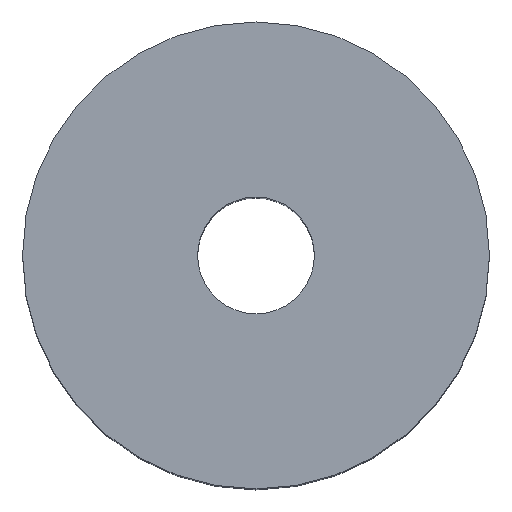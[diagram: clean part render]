
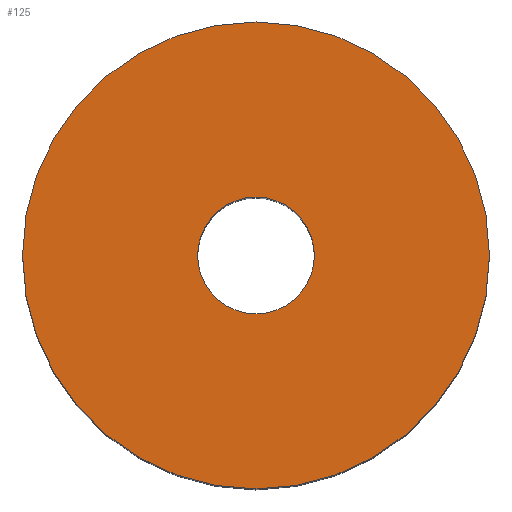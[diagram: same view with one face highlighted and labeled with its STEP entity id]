
A CAD part, top view. The second image highlights one B-rep face of the part: STEP entity #125.
In plain terms, the highlighted planar face has unit normal (0, 0, 1).
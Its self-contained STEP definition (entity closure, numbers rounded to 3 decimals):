
#125=ADVANCED_FACE('',(#137,#138),#135,.T.);
#135=PLANE('',#244);
#137=FACE_BOUND('',#141,.T.);
#138=FACE_BOUND('',#142,.T.);
#141=EDGE_LOOP('',(#153,#154));
#142=EDGE_LOOP('',(#155,#156));
#153=ORIENTED_EDGE('',*,*,#205,.T.);
#154=ORIENTED_EDGE('',*,*,#206,.T.);
#155=ORIENTED_EDGE('',*,*,#207,.F.);
#156=ORIENTED_EDGE('',*,*,#208,.F.);
#193=VERTEX_POINT('',#322);
#194=VERTEX_POINT('',#323);
#195=VERTEX_POINT('',#326);
#196=VERTEX_POINT('',#327);
#205=EDGE_CURVE('',#193,#194,#225,.T.);
#206=EDGE_CURVE('',#194,#193,#226,.T.);
#207=EDGE_CURVE('',#195,#196,#227,.T.);
#208=EDGE_CURVE('',#196,#195,#228,.T.);
#225=CIRCLE('',#240,40.);
#226=CIRCLE('',#241,40.);
#227=CIRCLE('',#242,10.);
#228=CIRCLE('',#243,10.);
#240=AXIS2_PLACEMENT_3D('',#321,#266,#267);
#241=AXIS2_PLACEMENT_3D('',#324,#268,#269);
#242=AXIS2_PLACEMENT_3D('',#325,#270,#271);
#243=AXIS2_PLACEMENT_3D('',#328,#272,#273);
#244=AXIS2_PLACEMENT_3D('',#329,#274,#275);
#266=DIRECTION('',(0.,0.,1.));
#267=DIRECTION('',(0.,1.,0.));
#268=DIRECTION('',(0.,0.,1.));
#269=DIRECTION('',(0.,-1.,0.));
#270=DIRECTION('',(0.,0.,1.));
#271=DIRECTION('',(0.,-1.,0.));
#272=DIRECTION('',(0.,0.,1.));
#273=DIRECTION('',(0.,1.,0.));
#274=DIRECTION('',(0.,0.,1.));
#275=DIRECTION('',(0.,1.,0.));
#321=CARTESIAN_POINT('',(0.,0.,103.));
#322=CARTESIAN_POINT('',(-40.,0.,103.));
#323=CARTESIAN_POINT('',(40.,0.,103.));
#324=CARTESIAN_POINT('',(0.,0.,103.));
#325=CARTESIAN_POINT('',(0.,0.,103.));
#326=CARTESIAN_POINT('',(10.,0.,103.));
#327=CARTESIAN_POINT('',(-10.,0.,103.));
#328=CARTESIAN_POINT('',(0.,0.,103.));
#329=CARTESIAN_POINT('',(0.,0.,103.));
